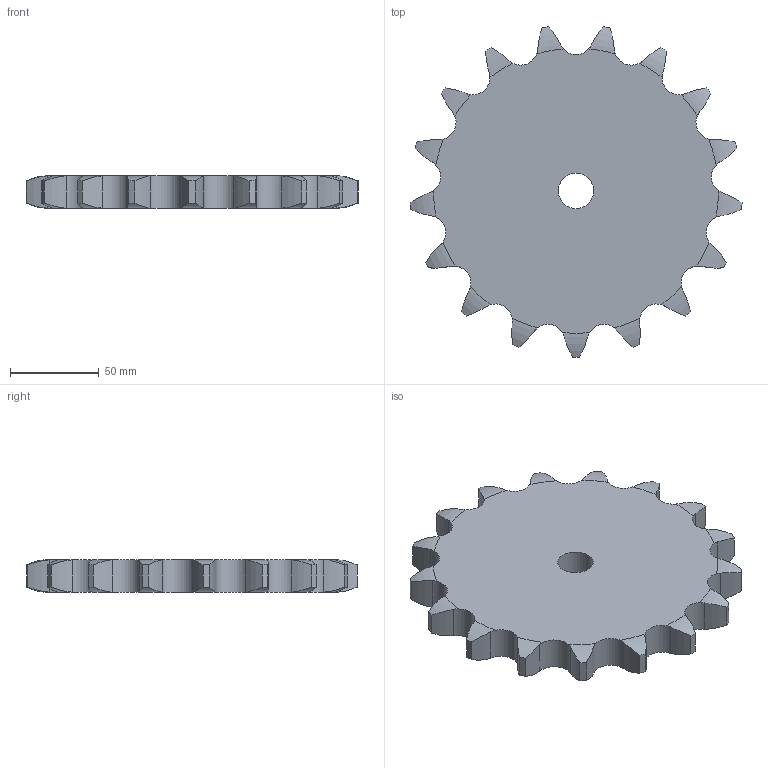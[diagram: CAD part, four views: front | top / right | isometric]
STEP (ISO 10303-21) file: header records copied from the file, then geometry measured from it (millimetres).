
FILE_DESCRIPTION((''),'2;1');
FILE_NAME('500-601-0017_PRT','2021-02-12T',('Brieden'),('Brieden'),'PRO/ENGINEER BY PARAMETRIC TECHNOLOGY CORPORATION, 2010160','PRO/ENGINEER BY PARAMETRIC TECHNOLOGY CORPORATION, 2010160','');
FILE_SCHEMA(('AUTOMOTIVE_DESIGN { 1 0 10303 214 1 1 1 1 }'));
Length unit declared in the file: millimetre
Products named in the file (1): 500-601-0017_PRT
Bounding box: 187.4 x 186.61 x 18.5 mm (x, y, z)
Volume: 397362.7 mm3; surface area: 58966 mm2
Topology: 1 solids, 1 shells, 106 faces, 312 edges, 208 vertices
Faces by surface type: cylinder 70, torus 34, plane 2
Entity records: 5209 total; most frequent: CARTESIAN_POINT 1538, ORIENTED_EDGE 624, DIRECTION 494, PRESENTATION_STYLE_ASSIGNMENT 313, STYLED_ITEM 313, CURVE_STYLE 312, EDGE_CURVE 312, AXIS2_PLACEMENT_3D 212
